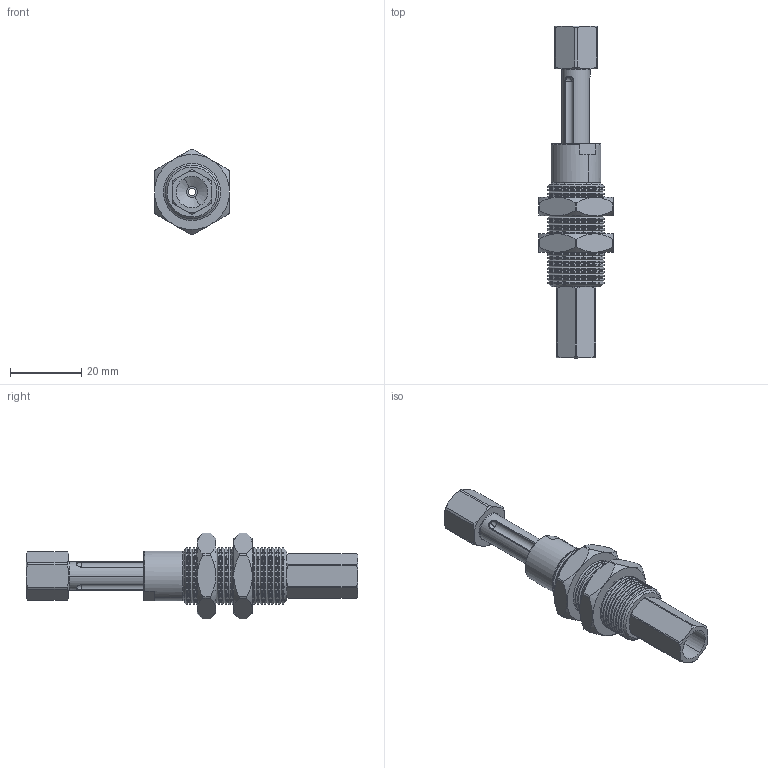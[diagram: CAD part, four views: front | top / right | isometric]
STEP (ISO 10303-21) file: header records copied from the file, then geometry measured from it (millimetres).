
FILE_DESCRIPTION (( 'STEP AP214' ), '1' );
FILE_NAME ('VFNT1621-G18.STEP', '2019-11-18T05:31:25', ( '微软用户' ), ( '微软中国' ), 'SwSTEP 2.0', 'SolidWorks 2016', '' );
FILE_SCHEMA (( 'AUTOMOTIVE_DESIGN' ));
Length unit declared in the file: millimetre
Products named in the file (1): VFNT1621-G18
Bounding box: 21 x 93 x 24 mm (x, y, z)
Volume: 11852.9 mm3; surface area: 11508.1 mm2
Topology: 6 solids, 6 shells, 510 faces, 1111 edges, 622 vertices
Faces by surface type: cone 268, cylinder 167, plane 55, sphere 12, bspline 6, torus 2
Entity records: 22378 total; most frequent: CARTESIAN_POINT 5554, DIRECTION 2483, ORIENTED_EDGE 2222, EDGE_CURVE 1111, AXIS2_PLACEMENT_3D 1015, VERTEX_POINT 622, EDGE_LOOP 537, UNCERTAINTY_MEASURE_WITH_UNIT 518
